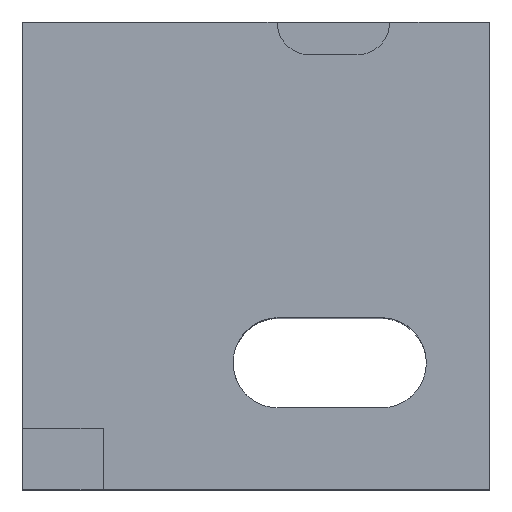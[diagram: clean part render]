
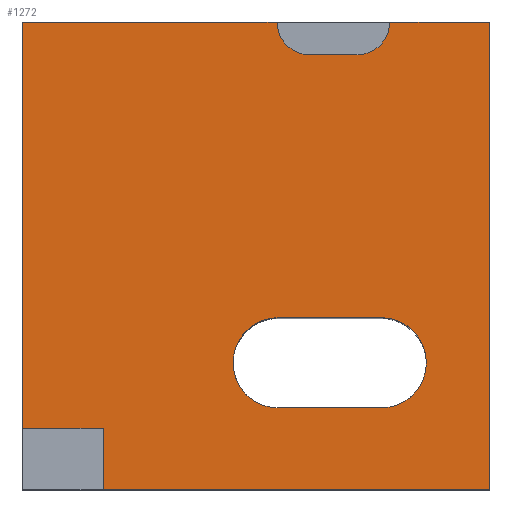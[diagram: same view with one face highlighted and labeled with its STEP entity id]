
A CAD part, top view. The second image highlights one B-rep face of the part: STEP entity #1272.
In plain terms, the highlighted planar face has unit normal (0, 0, 1).
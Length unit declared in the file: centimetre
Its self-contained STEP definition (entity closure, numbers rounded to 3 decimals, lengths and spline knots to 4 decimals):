
#8 = CARTESIAN_POINT ( 'NONE',  ( 768.0762, 367.0603, 1000. ) ) ;
#15 = EDGE_CURVE ( 'NONE', #656, #373, #994, .T. ) ;
#22 = VERTEX_POINT ( 'NONE', #665 ) ;
#39 = VERTEX_POINT ( 'NONE', #965 ) ;
#63 = VERTEX_POINT ( 'NONE', #982 ) ;
#65 = CIRCLE ( 'NONE', #607, 96.5359 ) ;
#112 = DIRECTION ( 'NONE',  ( 0., 1., 0. ) ) ;
#124 = DIRECTION ( 'NONE',  ( 0., 1., 0. ) ) ;
#141 = EDGE_CURVE ( 'NONE', #39, #1962, #212, .T. ) ;
#144 = CARTESIAN_POINT ( 'NONE',  ( 0., 1000., 1000. ) ) ;
#167 = DIRECTION ( 'NONE',  ( 1., 0., 0. ) ) ;
#191 = LINE ( 'NONE', #1333, #1454 ) ;
#192 = LINE ( 'NONE', #1286, #1826 ) ;
#208 = ORIENTED_EDGE ( 'NONE', *, *, #1067, .F. ) ;
#209 = CARTESIAN_POINT ( 'NONE',  ( 547.4374, 173.9886, 1000. ) ) ;
#212 = LINE ( 'NONE', #391, #1813 ) ;
#228 = LINE ( 'NONE', #209, #275 ) ;
#233 = AXIS2_PLACEMENT_3D ( 'NONE', #1933, #971, #1437 ) ;
#250 = VECTOR ( 'NONE', #112, 100. ) ;
#261 = CARTESIAN_POINT ( 'NONE',  ( 544.9989, 1000., 1000. ) ) ;
#275 = VECTOR ( 'NONE', #1489, 100. ) ;
#276 = VERTEX_POINT ( 'NONE', #1644 ) ;
#285 = AXIS2_PLACEMENT_3D ( 'NONE', #692, #1975, #1002 ) ;
#335 = CARTESIAN_POINT ( 'NONE',  ( 0., 0., 1000. ) ) ;
#373 = VERTEX_POINT ( 'NONE', #721 ) ;
#374 = DIRECTION ( 'NONE',  ( 0., 0., 1. ) ) ;
#376 = AXIS2_PLACEMENT_3D ( 'NONE', #1639, #840, #1825 ) ;
#391 = CARTESIAN_POINT ( 'NONE',  ( 615.2635, 929.7354, 1000. ) ) ;
#419 = VERTEX_POINT ( 'NONE', #914 ) ;
#492 = ORIENTED_EDGE ( 'NONE', *, *, #601, .T. ) ;
#519 = VECTOR ( 'NONE', #1129, 100. ) ;
#544 = ORIENTED_EDGE ( 'NONE', *, *, #711, .T. ) ;
#552 = LINE ( 'NONE', #1517, #1058 ) ;
#559 = CARTESIAN_POINT ( 'NONE',  ( 547.4374, 367.0603, 1000. ) ) ;
#570 = CARTESIAN_POINT ( 'NONE',  ( 716.0443, 929.7354, 1000. ) ) ;
#590 = VERTEX_POINT ( 'NONE', #1593 ) ;
#601 = EDGE_CURVE ( 'NONE', #419, #22, #65, .T. ) ;
#607 = AXIS2_PLACEMENT_3D ( 'NONE', #1952, #651, #2082 ) ;
#614 = DIRECTION ( 'NONE',  ( -1., 0., 0. ) ) ;
#617 = EDGE_CURVE ( 'NONE', #590, #1636, #1151, .T. ) ;
#634 = CARTESIAN_POINT ( 'NONE',  ( 173.0039, 130.6549, 1000. ) ) ;
#651 = DIRECTION ( 'NONE',  ( 0., 0., -1. ) ) ;
#656 = VERTEX_POINT ( 'NONE', #634 ) ;
#665 = CARTESIAN_POINT ( 'NONE',  ( 768.0762, 173.9886, 1000. ) ) ;
#678 = CARTESIAN_POINT ( 'NONE',  ( 716.0443, 1000., 1000. ) ) ;
#692 = CARTESIAN_POINT ( 'NONE',  ( 615.2635, 1000., 1000. ) ) ;
#711 = EDGE_CURVE ( 'NONE', #1889, #373, #191, .T. ) ;
#721 = CARTESIAN_POINT ( 'NONE',  ( 0., 130.6549, 1000. ) ) ;
#722 = VERTEX_POINT ( 'NONE', #1482 ) ;
#787 = ORIENTED_EDGE ( 'NONE', *, *, #2073, .T. ) ;
#816 = CARTESIAN_POINT ( 'NONE',  ( 0., 130.6549, 1000. ) ) ;
#821 = EDGE_CURVE ( 'NONE', #22, #722, #228, .T. ) ;
#839 = CARTESIAN_POINT ( 'NONE',  ( 1000., 1000., 1000. ) ) ;
#840 = DIRECTION ( 'NONE',  ( 0., 0., -1. ) ) ;
#842 = ORIENTED_EDGE ( 'NONE', *, *, #1184, .T. ) ;
#909 = ORIENTED_EDGE ( 'NONE', *, *, #2075, .F. ) ;
#914 = CARTESIAN_POINT ( 'NONE',  ( 768.0762, 367.0603, 1000. ) ) ;
#920 = VECTOR ( 'NONE', #614, 100. ) ;
#930 = CARTESIAN_POINT ( 'NONE',  ( 0., 1000., 1000. ) ) ;
#942 = LINE ( 'NONE', #930, #519 ) ;
#965 = CARTESIAN_POINT ( 'NONE',  ( 615.2635, 929.7354, 1000. ) ) ;
#971 = DIRECTION ( 'NONE',  ( 0., 0., -1. ) ) ;
#982 = CARTESIAN_POINT ( 'NONE',  ( 1000., 0., 1000. ) ) ;
#994 = LINE ( 'NONE', #816, #1785 ) ;
#1002 = DIRECTION ( 'NONE',  ( 1., 0., 0. ) ) ;
#1014 = EDGE_LOOP ( 'NONE', ( #2078, #2098, #1648, #492, #1645 ) ) ;
#1023 = CIRCLE ( 'NONE', #1130, 70.2647 ) ;
#1026 = EDGE_CURVE ( 'NONE', #722, #590, #1061, .T. ) ;
#1058 = VECTOR ( 'NONE', #124, 100. ) ;
#1061 = CIRCLE ( 'NONE', #376, 96.5359 ) ;
#1067 = EDGE_CURVE ( 'NONE', #1962, #276, #1023, .T. ) ;
#1095 = VECTOR ( 'NONE', #1289, 100. ) ;
#1129 = DIRECTION ( 'NONE',  ( -1., 0., 0. ) ) ;
#1130 = AXIS2_PLACEMENT_3D ( 'NONE', #678, #1317, #1968 ) ;
#1151 = CIRCLE ( 'NONE', #233, 96.5359 ) ;
#1160 = EDGE_CURVE ( 'NONE', #1636, #419, #1929, .T. ) ;
#1184 = EDGE_CURVE ( 'NONE', #1419, #276, #942, .T. ) ;
#1230 = CARTESIAN_POINT ( 'NONE',  ( 1000., 1000., 1000. ) ) ;
#1272 = ADVANCED_FACE ( 'NONE', ( #1467, #1477 ), #1957, .T. ) ;
#1286 = CARTESIAN_POINT ( 'NONE',  ( 0., 0., 1000. ) ) ;
#1289 = DIRECTION ( 'NONE',  ( 1., 0., 0. ) ) ;
#1315 = ORIENTED_EDGE ( 'NONE', *, *, #141, .F. ) ;
#1317 = DIRECTION ( 'NONE',  ( 0., 0., 1. ) ) ;
#1320 = ORIENTED_EDGE ( 'NONE', *, *, #1719, .T. ) ;
#1333 = CARTESIAN_POINT ( 'NONE',  ( 0., 1000., 1000. ) ) ;
#1403 = ORIENTED_EDGE ( 'NONE', *, *, #15, .F. ) ;
#1414 = LINE ( 'NONE', #144, #920 ) ;
#1419 = VERTEX_POINT ( 'NONE', #839 ) ;
#1437 = DIRECTION ( 'NONE',  ( 1., 0., 0. ) ) ;
#1454 = VECTOR ( 'NONE', #1670, 100. ) ;
#1460 = DIRECTION ( 'NONE',  ( -1., 0., 0. ) ) ;
#1467 = FACE_OUTER_BOUND ( 'NONE', #1470, .T. ) ;
#1470 = EDGE_LOOP ( 'NONE', ( #1403, #909, #1320, #787, #842, #208, #1315, #1708, #1858, #544 ) ) ;
#1477 = FACE_BOUND ( 'NONE', #1014, .T. ) ;
#1482 = CARTESIAN_POINT ( 'NONE',  ( 547.4374, 173.9886, 1000. ) ) ;
#1489 = DIRECTION ( 'NONE',  ( -1., 0., 0. ) ) ;
#1517 = CARTESIAN_POINT ( 'NONE',  ( 173.0039, 0., 1000. ) ) ;
#1551 = VERTEX_POINT ( 'NONE', #2000 ) ;
#1593 = CARTESIAN_POINT ( 'NONE',  ( 450.9016, 270.5244, 1000. ) ) ;
#1619 = EDGE_CURVE ( 'NONE', #1903, #1889, #1414, .T. ) ;
#1636 = VERTEX_POINT ( 'NONE', #559 ) ;
#1639 = CARTESIAN_POINT ( 'NONE',  ( 547.4374, 270.5244, 1000. ) ) ;
#1644 = CARTESIAN_POINT ( 'NONE',  ( 786.309, 1000., 1000. ) ) ;
#1645 = ORIENTED_EDGE ( 'NONE', *, *, #821, .T. ) ;
#1648 = ORIENTED_EDGE ( 'NONE', *, *, #1160, .T. ) ;
#1670 = DIRECTION ( 'NONE',  ( 0., -1., 0. ) ) ;
#1708 = ORIENTED_EDGE ( 'NONE', *, *, #1833, .F. ) ;
#1719 = EDGE_CURVE ( 'NONE', #1551, #63, #192, .T. ) ;
#1785 = VECTOR ( 'NONE', #1460, 100. ) ;
#1813 = VECTOR ( 'NONE', #1822, 100. ) ;
#1822 = DIRECTION ( 'NONE',  ( 1., 0., 0. ) ) ;
#1825 = DIRECTION ( 'NONE',  ( 1., 0., 0. ) ) ;
#1826 = VECTOR ( 'NONE', #167, 100. ) ;
#1833 = EDGE_CURVE ( 'NONE', #1903, #39, #1939, .T. ) ;
#1858 = ORIENTED_EDGE ( 'NONE', *, *, #1619, .T. ) ;
#1889 = VERTEX_POINT ( 'NONE', #1897 ) ;
#1897 = CARTESIAN_POINT ( 'NONE',  ( 0., 1000., 1000. ) ) ;
#1902 = AXIS2_PLACEMENT_3D ( 'NONE', #335, #374, #1979 ) ;
#1903 = VERTEX_POINT ( 'NONE', #261 ) ;
#1929 = LINE ( 'NONE', #8, #1095 ) ;
#1933 = CARTESIAN_POINT ( 'NONE',  ( 547.4374, 270.5244, 1000. ) ) ;
#1939 = CIRCLE ( 'NONE', #285, 70.2647 ) ;
#1952 = CARTESIAN_POINT ( 'NONE',  ( 768.0762, 270.5244, 1000. ) ) ;
#1957 = PLANE ( 'NONE',  #1902 ) ;
#1962 = VERTEX_POINT ( 'NONE', #570 ) ;
#1968 = DIRECTION ( 'NONE',  ( 1., 0., 0. ) ) ;
#1975 = DIRECTION ( 'NONE',  ( 0., 0., 1. ) ) ;
#1979 = DIRECTION ( 'NONE',  ( 1., 0., 0. ) ) ;
#2000 = CARTESIAN_POINT ( 'NONE',  ( 173.0039, 0., 1000. ) ) ;
#2017 = LINE ( 'NONE', #1230, #250 ) ;
#2073 = EDGE_CURVE ( 'NONE', #63, #1419, #2017, .T. ) ;
#2075 = EDGE_CURVE ( 'NONE', #1551, #656, #552, .T. ) ;
#2078 = ORIENTED_EDGE ( 'NONE', *, *, #1026, .T. ) ;
#2082 = DIRECTION ( 'NONE',  ( 1., 0., 0. ) ) ;
#2098 = ORIENTED_EDGE ( 'NONE', *, *, #617, .T. ) ;
